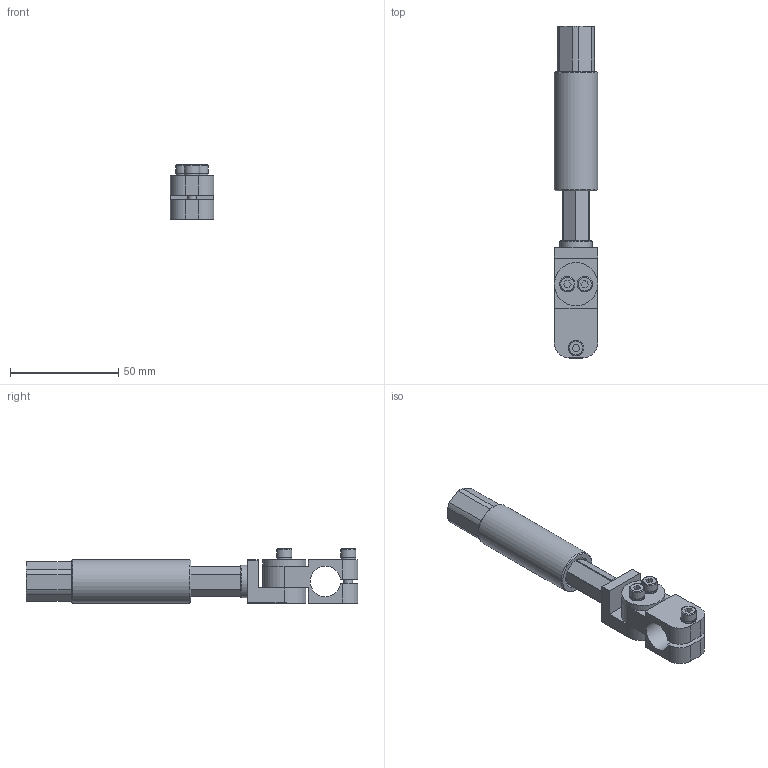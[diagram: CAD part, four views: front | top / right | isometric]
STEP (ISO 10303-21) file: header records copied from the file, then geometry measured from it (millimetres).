
FILE_DESCRIPTION(('STEP AP214'),'1');
FILE_NAME('CA.SMN.202514.stp','2019-02-22T07:27:39',(' '),(' '),'Spatial InterOp 3D',' ',' ');
FILE_SCHEMA(('AUTOMOTIVE_DESIGN { 1 0 10303 214 1 1 1 1 }'));
Length unit declared in the file: millimetre
Products named in the file (11): CA.SMN.202514; V.TCE4X20; VSN.2025.3; VSN.2025.2.1; GVR.14.2; R.4.SCH; GVR.14.3; GRZ.202514.1; M.12X39.50; VSN.20.1; VSN.2025.4
Assembly tree (14 placements, depth 2):
  CA.SMN.202514
    V.TCE4X20  x3
    VSN.2025.3
    VSN.2025.2.1
    GVR.14.2
    R.4.SCH  x3
    GVR.14.3
    GRZ.202514.1
    M.12X39.50
    VSN.20.1
    VSN.2025.4
Bounding box: 20.04 x 153 x 25 mm (x, y, z)
Volume: 35312.4 mm3; surface area: 26424.2 mm2
Topology: 11 solids, 14 shells, 772 faces, 2191 edges, 1452 vertices
Faces by surface type: plane 671, cylinder 64, cone 30, torus 6, bspline 1
Full cylindrical faces by diameter (mm): 3.3 x3, 4 x3, 4.2 x3, 4.3 x3, 6 x1, 7 x7, 8.566 x3, 9.728 x2, 10 x1, 10.1 x1, 13.9 x1, 14 x1, 14.1 x1, 15 x1, 16 x1, 16.02 x1, 20 x2
Entity records: 17062 total; most frequent: CARTESIAN_POINT 4989, DIRECTION 1934, ORIENTED_EDGE 1814, EDGE_CURVE 907, AXIS2_PLACEMENT_3D 696, VERTEX_POINT 626, LINE 542, VECTOR 542
